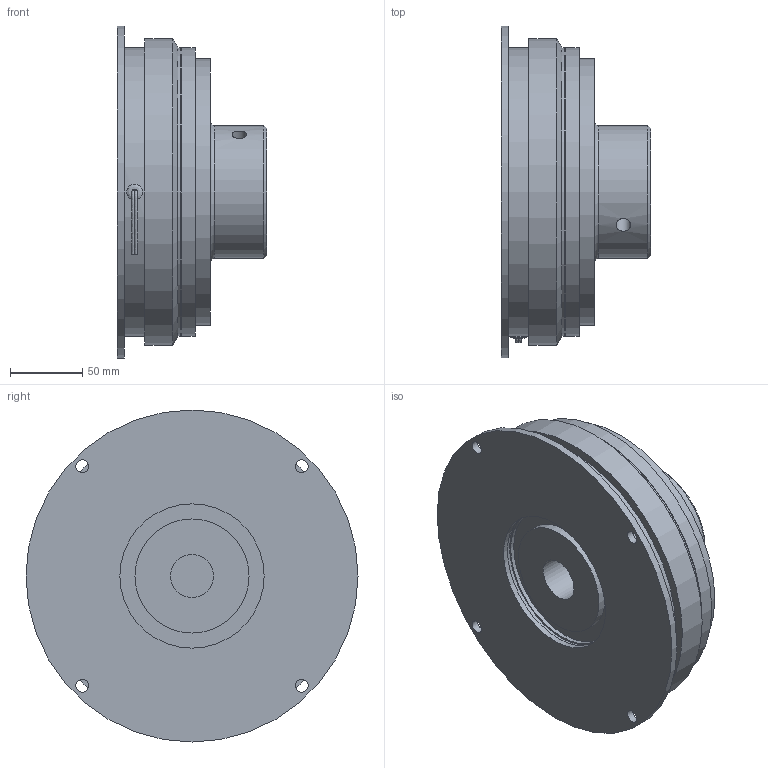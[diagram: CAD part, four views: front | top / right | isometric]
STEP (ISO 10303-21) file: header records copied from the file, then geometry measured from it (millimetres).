
FILE_DESCRIPTION(/* description */ (''),/* implementation_level */ '2;1');
FILE_NAME(/* name */ 'T:\INVENTOR\DISEGNI\08_Freni_Friz_Elettmag_Monodisco\08_20 ESAL\08_20_200_02 ESAL200_ME\08_20_200_02 ESAL200 ME@STEP.stp',/* time_stamp */ '2022-11-09T09:26:40+01:00',/* author */ ('w.sartori'),/* organization */ (''),/* preprocessor_version */ 'ST-DEVELOPER v18.1',/* originating_system */ 'Autodesk Inventor 2021',/* authorisation */ '');
FILE_SCHEMA (('CONFIG_CONTROL_DESIGN'));
Length unit declared in the file: inch
Products named in the file (1): 08_20_200_02 ESAL200 ME
Bounding box: 103.55 x 230 x 230 mm (x, y, z)
Volume: 2085393.2 mm3; surface area: 292471.4 mm2
Topology: 2 solids, 7 shells, 157 faces, 314 edges, 200 vertices
Faces by surface type: cylinder 84, plane 57, cone 11, bspline 3, torus 2
Full cylindrical faces by diameter (mm): 3 x3, 4 x1, 8.1 x3, 8.2 x3, 8.376 x3, 9 x4, 10.106 x2, 10.2 x3, 11 x1, 12 x3, 25 x6, 30 x1, 79 x1, 90 x1, 92 x1, 100 x5, 102.1 x1, 124 x1, 131 x1, 185 x1, 186 x1, 200 x4, 212.5 x1, 230 x1
Entity records: 4878 total; most frequent: CARTESIAN_POINT 1126, DIRECTION 808, ORIENTED_EDGE 626, AXIS2_PLACEMENT_3D 354, EDGE_CURVE 313, EDGE_LOOP 223, VERTEX_POINT 200, CIRCLE 199
